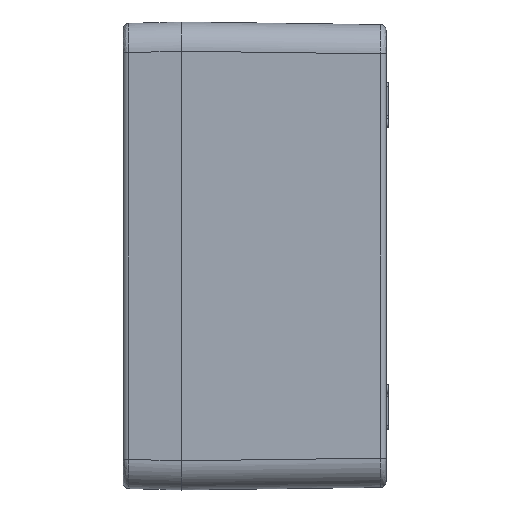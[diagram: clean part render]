
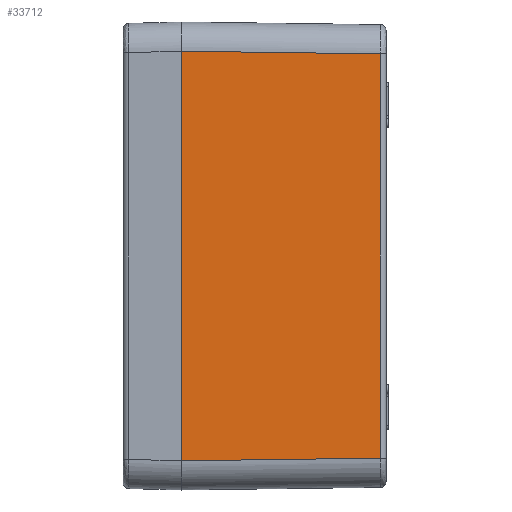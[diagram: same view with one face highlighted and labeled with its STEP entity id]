
A CAD part, left-side view. The second image highlights one B-rep face of the part: STEP entity #33712.
In plain terms, the highlighted planar face has unit normal (-1, -0.013, 0) as drawn and (1, -0.013, 0) by its records, which use the part's own axes.
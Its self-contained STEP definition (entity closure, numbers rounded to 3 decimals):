
#7471=DIRECTION('',(0.,0.,1.));
#7472=VECTOR('',#7471,140.152);
#7473=CARTESIAN_POINT('',(80.075,0.,-70.076));
#7474=LINE('',#7473,#7472);
#7486=CARTESIAN_POINT('',(80.075,0.,70.076));
#13730=DIRECTION('',(0.013,1.,0.013));
#13731=VECTOR('',#13730,68.138);
#13732=CARTESIAN_POINT('',(79.176,-68.126,
69.177));
#13733=LINE('',#13732,#13731);
#13737=DIRECTION('',(0.013,1.,-0.013));
#13738=VECTOR('',#13737,68.138);
#13739=CARTESIAN_POINT('',(79.176,-68.126,
-69.177));
#13740=LINE('',#13739,#13738);
#13744=DIRECTION('',(0.,0.,1.));
#13745=VECTOR('',#13744,138.354);
#13746=CARTESIAN_POINT('',(79.176,-68.126,
-69.177));
#13747=LINE('',#13746,#13745);
#20843=VERTEX_POINT('',#7486);
#20844=CARTESIAN_POINT('',(79.176,-68.126,
69.177));
#20845=VERTEX_POINT('',#20844);
#20850=CARTESIAN_POINT('',(80.075,0.,-70.076));
#20851=VERTEX_POINT('',#20850);
#20852=CARTESIAN_POINT('',(79.176,-68.126,
-69.177));
#20853=VERTEX_POINT('',#20852);
#33699=CARTESIAN_POINT('',(79.613,-35.05,0.));
#33700=DIRECTION('',(1.,-0.013,0.));
#33701=DIRECTION('',(0.013,1.,0.));
#33702=AXIS2_PLACEMENT_3D('',#33699,#33700,#33701);
#33703=PLANE('',#33702);
#33704=ORIENTED_EDGE('',*,*,#33684,.T.);
#33705=ORIENTED_EDGE('',*,*,#25092,.F.);
#33707=ORIENTED_EDGE('',*,*,#33706,.F.);
#33709=ORIENTED_EDGE('',*,*,#33708,.T.);
#33710=EDGE_LOOP('',(#33704,#33705,#33707,#33709));
#33711=FACE_OUTER_BOUND('',#33710,.F.);
#25092=EDGE_CURVE('',#20851,#20843,#7474,.T.);
#33684=EDGE_CURVE('',#20845,#20843,#13733,.T.);
#33706=EDGE_CURVE('',#20853,#20851,#13740,.T.);
#33708=EDGE_CURVE('',#20853,#20845,#13747,.T.);
#33712=ADVANCED_FACE('',(#33711),#33703,.T.);
